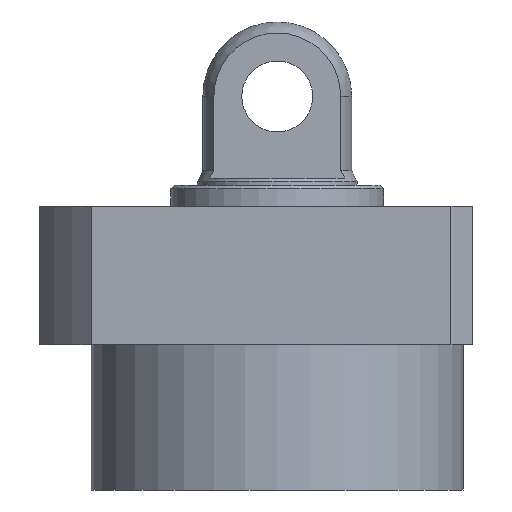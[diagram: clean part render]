
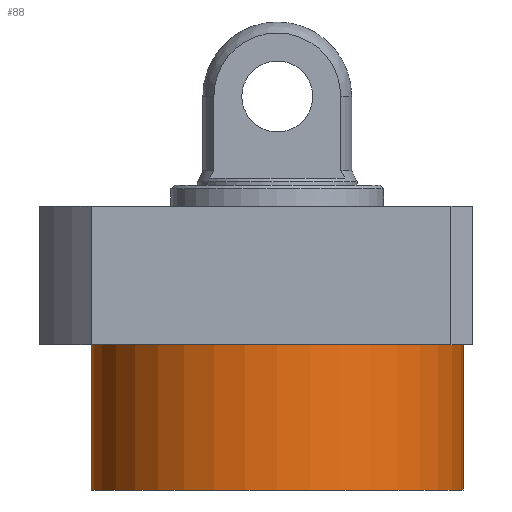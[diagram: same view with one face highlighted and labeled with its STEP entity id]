
A CAD part, front view. The second image highlights one B-rep face of the part: STEP entity #88.
In plain terms, the highlighted cylindrical face has radius 52.5 mm (diameter 105 mm), a partial arc.
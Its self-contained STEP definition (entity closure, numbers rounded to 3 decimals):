
#25 = DIRECTION ( 'NONE',  ( 0., 0., 1. ) ) ;
#30 = CARTESIAN_POINT ( 'NONE',  ( 52.5, 0., -60.5 ) ) ;
#88 = ADVANCED_FACE ( 'NONE', ( #674 ), #1197, .T. ) ;
#106 = DIRECTION ( 'NONE',  ( 0., 0., -1. ) ) ;
#159 = VERTEX_POINT ( 'NONE', #599 ) ;
#160 = EDGE_CURVE ( 'NONE', #956, #184, #700, .T. ) ;
#173 = ORIENTED_EDGE ( 'NONE', *, *, #418, .F. ) ;
#184 = VERTEX_POINT ( 'NONE', #1569 ) ;
#208 = EDGE_LOOP ( 'NONE', ( #1667, #173, #891, #1665 ) ) ;
#294 = VECTOR ( 'NONE', #1000, 1000. ) ;
#345 = LINE ( 'NONE', #1397, #388 ) ;
#388 = VECTOR ( 'NONE', #25, 1000. ) ;
#418 = EDGE_CURVE ( 'NONE', #1249, #159, #562, .T. ) ;
#508 = AXIS2_PLACEMENT_3D ( 'NONE', #510, #106, #660 ) ;
#510 = CARTESIAN_POINT ( 'NONE',  ( 0., 0., -60.5 ) ) ;
#562 = CIRCLE ( 'NONE', #508, 52.5 ) ;
#591 = EDGE_CURVE ( 'NONE', #159, #184, #345, .T. ) ;
#595 = DIRECTION ( 'NONE',  ( 0., 0., -1. ) ) ;
#599 = CARTESIAN_POINT ( 'NONE',  ( -52.5, 0., -60.5 ) ) ;
#660 = DIRECTION ( 'NONE',  ( -1., 0., 0. ) ) ;
#674 = FACE_OUTER_BOUND ( 'NONE', #208, .T. ) ;
#700 = CIRCLE ( 'NONE', #878, 52.5 ) ;
#744 = LINE ( 'NONE', #30, #294 ) ;
#772 = CARTESIAN_POINT ( 'NONE',  ( 52.5, 0., -60.5 ) ) ;
#878 = AXIS2_PLACEMENT_3D ( 'NONE', #1139, #595, #1537 ) ;
#891 = ORIENTED_EDGE ( 'NONE', *, *, #1482, .T. ) ;
#956 = VERTEX_POINT ( 'NONE', #1773 ) ;
#1000 = DIRECTION ( 'NONE',  ( 0., 0., 1. ) ) ;
#1022 = CARTESIAN_POINT ( 'NONE',  ( 0., 0., -60.5 ) ) ;
#1139 = CARTESIAN_POINT ( 'NONE',  ( 0., 0., -19.5 ) ) ;
#1197 = CYLINDRICAL_SURFACE ( 'NONE', #1449, 52.5 ) ;
#1249 = VERTEX_POINT ( 'NONE', #772 ) ;
#1276 = DIRECTION ( 'NONE',  ( 1., 0., 0. ) ) ;
#1397 = CARTESIAN_POINT ( 'NONE',  ( -52.5, 0., -60.5 ) ) ;
#1449 = AXIS2_PLACEMENT_3D ( 'NONE', #1022, #1545, #1276 ) ;
#1482 = EDGE_CURVE ( 'NONE', #1249, #956, #744, .T. ) ;
#1537 = DIRECTION ( 'NONE',  ( 1., 0., 0. ) ) ;
#1545 = DIRECTION ( 'NONE',  ( 0., 0., 1. ) ) ;
#1569 = CARTESIAN_POINT ( 'NONE',  ( -52.5, 0., -19.5 ) ) ;
#1665 = ORIENTED_EDGE ( 'NONE', *, *, #160, .T. ) ;
#1667 = ORIENTED_EDGE ( 'NONE', *, *, #591, .F. ) ;
#1773 = CARTESIAN_POINT ( 'NONE',  ( 52.5, 0., -19.5 ) ) ;
